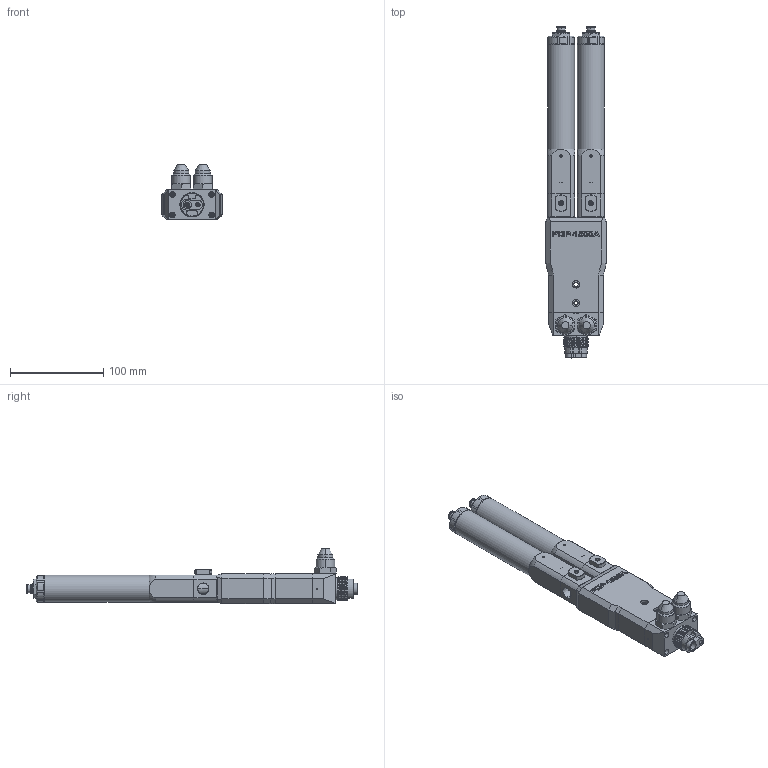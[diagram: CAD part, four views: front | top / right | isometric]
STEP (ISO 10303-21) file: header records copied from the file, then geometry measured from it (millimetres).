
FILE_DESCRIPTION (( 'STEP AP214' ), '1' );
FILE_NAME ('PDP-1500-1000FB.STEP', '2024-10-11T12:30:15', ( '' ), ( '' ), 'SwSTEP 2.0', 'SolidWorks 2024', '' );
FILE_SCHEMA (( 'AUTOMOTIVE_DESIGN' ));
Length unit declared in the file: millimetre
Products named in the file (1): PDP-1500-1000FB
Bounding box: 65 x 356 x 59.3 mm (x, y, z)
Volume: 530006.4 mm3; surface area: 127872.8 mm2
Topology: 12 solids, 12 shells, 1584 faces, 4030 edges, 2571 vertices
Faces by surface type: plane 769, cylinder 466, cone 307, bspline 22, torus 12, sphere 8
Full cylindrical faces by diameter (mm): 29 x2
Entity records: 59751 total; most frequent: CARTESIAN_POINT 21635, ORIENTED_EDGE 8000, DIRECTION 7809, EDGE_CURVE 4000, AXIS2_PLACEMENT_3D 2784, VERTEX_POINT 2571, VECTOR 2241, LINE 2241
